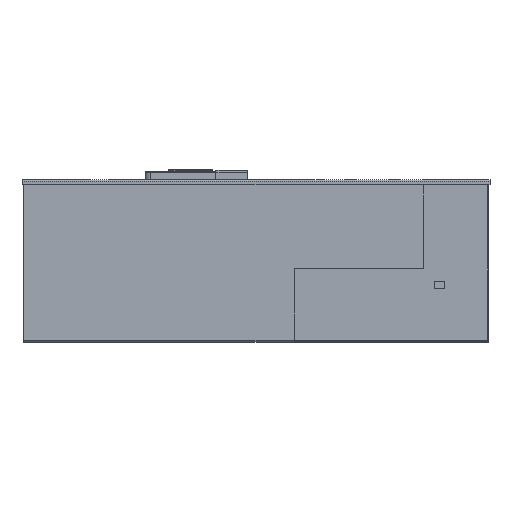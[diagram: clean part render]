
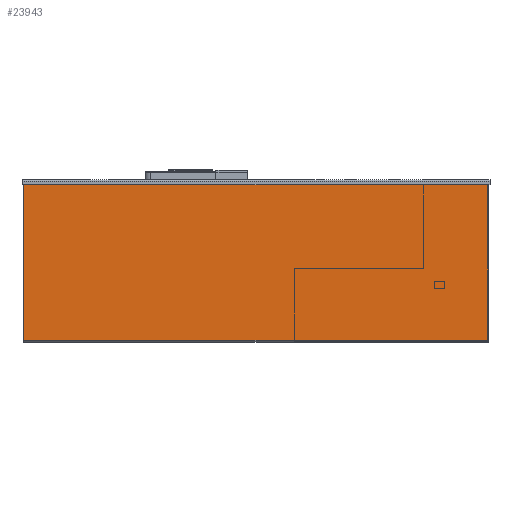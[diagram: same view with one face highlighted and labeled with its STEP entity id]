
A CAD part, left-side view. The second image highlights one B-rep face of the part: STEP entity #23943.
In plain terms, the highlighted planar face has unit normal (-1, 0, 0).
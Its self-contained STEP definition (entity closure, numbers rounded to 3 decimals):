
#1161=DIRECTION('',(0.,-1.,0.));
#1162=VECTOR('',#1161,297.3);
#1163=CARTESIAN_POINT('',(-11.75,-8.5,-110.));
#1164=LINE('',#1163,#1162);
#1659=DIRECTION('',(0.,1.,0.));
#1660=VECTOR('',#1659,297.3);
#1661=CARTESIAN_POINT('',(-11.75,-305.8,780.));
#1662=LINE('',#1661,#1660);
#1675=DIRECTION('',(0.,0.,1.));
#1676=VECTOR('',#1675,890.);
#1677=CARTESIAN_POINT('',(-11.75,-305.8,-110.));
#1678=LINE('',#1677,#1676);
#1683=DIRECTION('',(0.,0.,1.));
#1684=VECTOR('',#1683,890.);
#1685=CARTESIAN_POINT('',(-11.75,-8.5,-110.));
#1686=LINE('',#1685,#1684);
#17998=CARTESIAN_POINT('',(-11.75,-8.5,780.));
#17999=VERTEX_POINT('',#17998);
#18000=CARTESIAN_POINT('',(-11.75,-8.5,-110.));
#18001=VERTEX_POINT('',#18000);
#18326=CARTESIAN_POINT('',(-11.75,-305.8,-110.));
#18327=VERTEX_POINT('',#18326);
#18518=CARTESIAN_POINT('',(-11.75,-305.8,780.));
#18519=VERTEX_POINT('',#18518);
#23932=CARTESIAN_POINT('',(-11.75,-157.15,335.));
#23933=DIRECTION('',(1.,0.,0.));
#23934=DIRECTION('',(0.,-1.,0.));
#23935=AXIS2_PLACEMENT_3D('',#23932,#23933,#23934);
#23936=PLANE('',#23935);
#23937=ORIENTED_EDGE('',*,*,#23316,.F.);
#23938=ORIENTED_EDGE('',*,*,#22741,.T.);
#23939=ORIENTED_EDGE('',*,*,#23907,.F.);
#23940=ORIENTED_EDGE('',*,*,#23925,.F.);
#23941=EDGE_LOOP('',(#23937,#23938,#23939,#23940));
#23942=FACE_OUTER_BOUND('',#23941,.F.);
#22741=EDGE_CURVE('',#18001,#17999,#1686,.T.);
#23316=EDGE_CURVE('',#18001,#18327,#1164,.T.);
#23907=EDGE_CURVE('',#18519,#17999,#1662,.T.);
#23925=EDGE_CURVE('',#18327,#18519,#1678,.T.);
#23943=ADVANCED_FACE('',(#23942),#23936,.F.);
